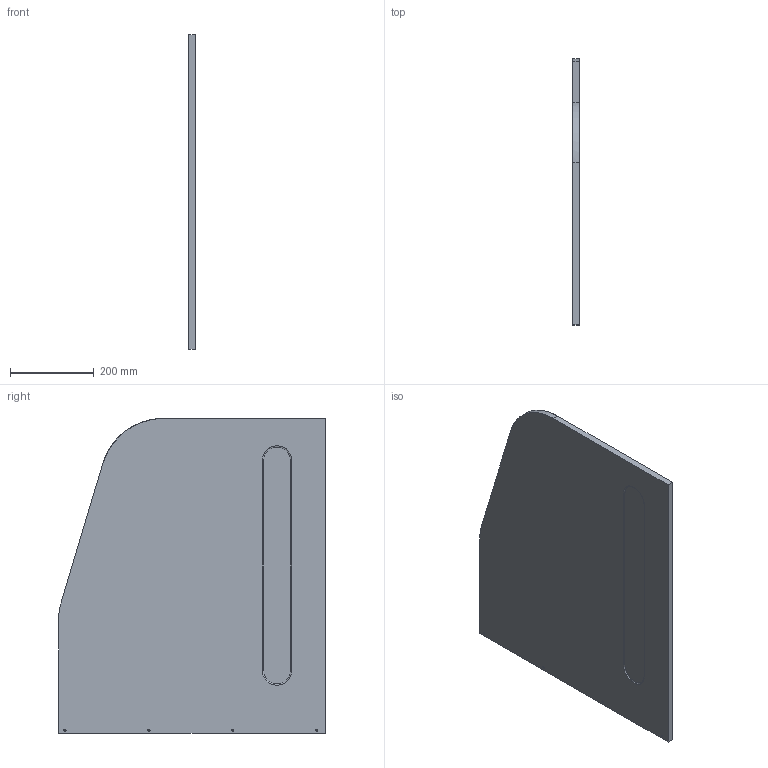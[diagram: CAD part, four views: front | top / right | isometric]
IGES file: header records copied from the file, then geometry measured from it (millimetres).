
Global section: file name: lateral esquerda.igs; native system: NX V2312; preprocessor: SIEMENS PLM Software NX2312.5001; date: 20240809.191005; units: millimetre
Bounding box: 15 x 635 x 750 mm (x, y, z)
Surface area: 926170.4 mm2 (no closed solid volume)
Topology: 0 solids, 0 shells, 18 faces, 180 edges, 172 vertices
Faces by surface type: bspline 18
